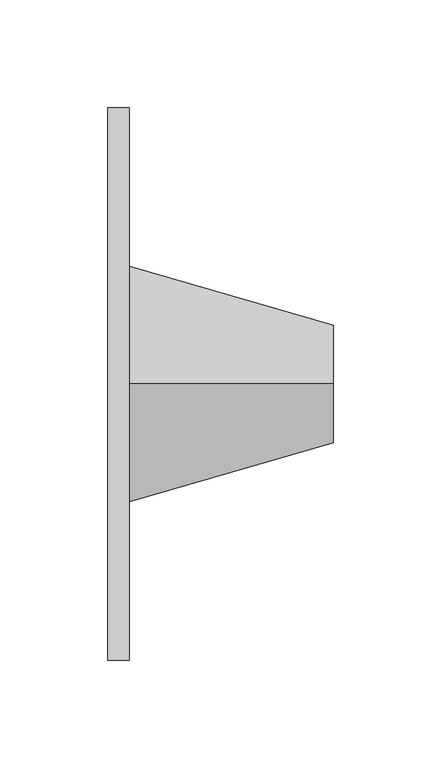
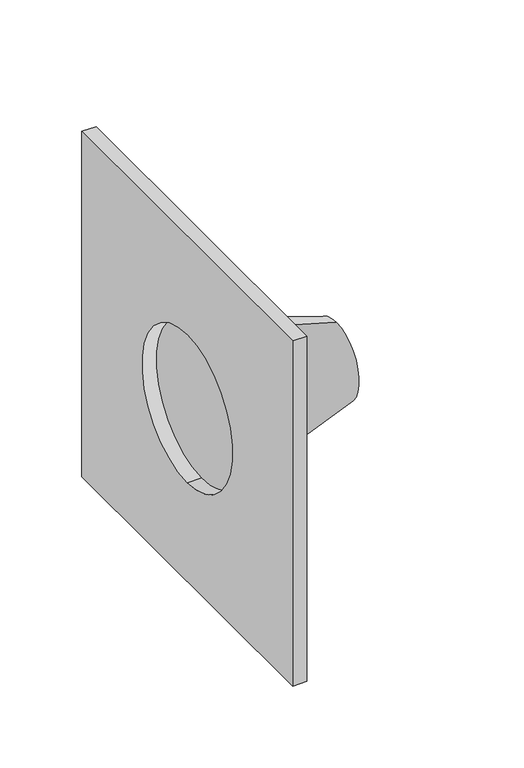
"""IFC4 building model written with IfcOpenShell, lengths in millimetres: pipe fitting geometry, PIF_KW PP kołnierz dachowy_Pipelife : KW PP kołnierz dachowy, szary (DN110-160)."""

from ifc_helpers import new_model, si_unit, point, frame, origin, origin_2d, place, context, project, spatial, polyline, circle_curve, trimmed, segment, composite_curve, outline, extrude, source, transform, mapped, element, save
from ifc_brep_helpers import plane_surface, revolved_surface, advanced_brep


def pipe_fitting_54a40be2(model_context):
    return source(origin(), model_context, "Body", "SolidModel", [
        advanced_brep(
        [(105.0, 0.0, -27.5), (105.0, 0.0, 27.5), (10.0, 0.0, -55.0), (10.0, 0.0, 55.0)],
        [
            (0, 1, circle_curve(frame((105.0, 0.0, 0.0), z_axis=(1.0, 0.0, 0.0), x_axis=(0.0, 0.0, -1.0)), 27.5)),
            (1, 0, circle_curve(frame((105.0, 0.0, 0.0), z_axis=(1.0, 0.0, 0.0), x_axis=(0.0, 0.0, 1.0)), 27.5)),
            (2, 3, circle_curve(frame((10.0, 0.0, 0.0), z_axis=(-1.0, 0.0, 0.0), x_axis=(0.0, 0.0, 1.0)), 55.0)),
            (3, 2, circle_curve(frame((10.0, 0.0, 0.0), z_axis=(-1.0, 0.0, 0.0), x_axis=(0.0, 0.0, -1.0)), 55.0)),
            (2, 0),
            (1, 3),
        ],
        [
            plane_surface(frame((105.0, 0.0, 0.0), z_axis=(1.0, 0.0, 0.0), x_axis=(0.0, -1.0, 0.0))),
            plane_surface(frame((10.0, 0.0, 0.0), z_axis=(-1.0, 0.0, 0.0), x_axis=(0.0, -1.0, 0.0))),
            revolved_surface(polyline([(105.0, 0.0, 27.5), (10.0, 0.0, 55.0)]), (200.0, 0.0, 0.0), (-1.0, 0.0, 0.0)),
            revolved_surface(polyline([(105.0, 0.0, -27.5), (10.0, 0.0, -55.0)]), (200.0, 0.0, 0.0), (-1.0, 0.0, 0.0)),
        ],
        [
            (0, [[1, 2]]),
            (1, [[3, 4]]),
            (2, [[-3, 5, -2, 6]]),
            (3, [[-4, -6, -1, -5]]),
        ],
    ),
        extrude(outline(polyline([(-128.5, 128.5), (128.5, 128.5), (128.5, -128.5), (-128.5, -128.5), (-128.5, 128.5)]), holes=[composite_curve([segment(trimmed(circle_curve(origin_2d(), 55.0), [point((0.0, -55.0))], [point((0.0, 55.0))], True, "CARTESIAN"), True, "CONTINUOUS"), segment(trimmed(circle_curve(origin_2d(), 55.0), [point((0.0, 55.0))], [point((0.0, -55.0))], True, "CARTESIAN"), True, "CONTINUOUS")], self_intersect=False)]), frame((0.0, 0.0, 0.0), z_axis=(1.0, 0.0, 0.0), x_axis=(0.0, 1.0, 0.0)), (0.0, 0.0, 1.0), 10.0),
    ])


if __name__ == "__main__":
    model = new_model("IFC4")
    model_context = context("Model", 3, world=origin())
    ifc_project = project(units=[si_unit("LENGTHUNIT", "METRE", prefix="MILLI")], contexts=[model_context])
    site = spatial("IfcSite", under=ifc_project)
    building = spatial("IfcBuilding", under=site)
    placement = place(None, origin())
    pipe_fitting_shape = pipe_fitting_54a40be2(model_context)
    element("IfcPipeFitting", 1, ObjectType="PIF_KW PP kołnierz dachowy_Pipelife : KW PP kołnierz dachowy, szary (DN110-160)", at=placement, inside=building, context=model_context, shape_type="MappedRepresentation", body=[
        mapped(pipe_fitting_shape, transform((0.0, 0.0, 0.0), x_axis=(1.0, 0.0, 0.0), y_axis=(0.0, 1.0, 0.0), z_axis=(0.0, 0.0, 1.0))),
    ])
    save(model, "model.ifc")
